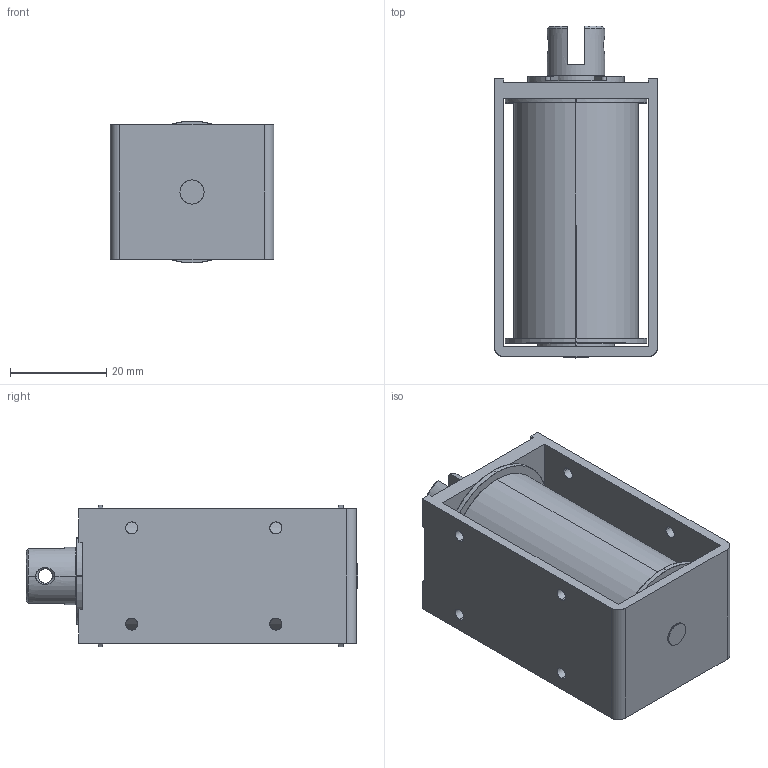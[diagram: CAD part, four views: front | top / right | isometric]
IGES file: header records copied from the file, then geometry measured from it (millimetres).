
Start section: SolidWorks IGES file using analytic representation for surfaces
Global section: file name: L:\カタログ\web用3Dデータ\CE1257\3D_CE1257\w_ce1257.IGS; native system: SolidWorks 2014; preprocessor: SolidWorks 2014; author: jiba; date: 140724.134548; units: millimetre
Bounding box: 34 x 69.1 x 29.5 mm (x, y, z)
Surface area: 19395.3 mm2 (no closed solid volume)
Topology: 0 solids, 0 shells, 126 faces, 2449 edges, 2449 vertices
Faces by surface type: revolution 68, bspline 58
